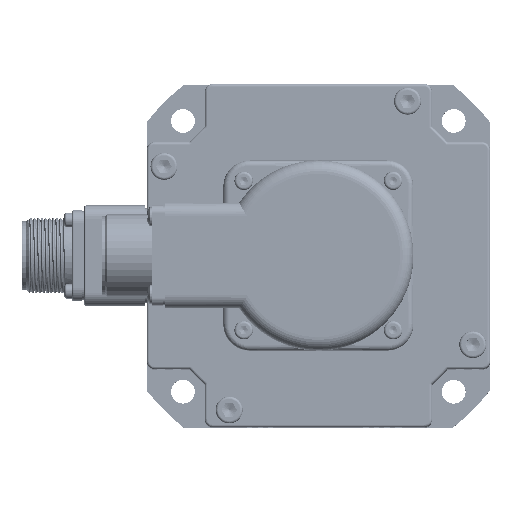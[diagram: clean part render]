
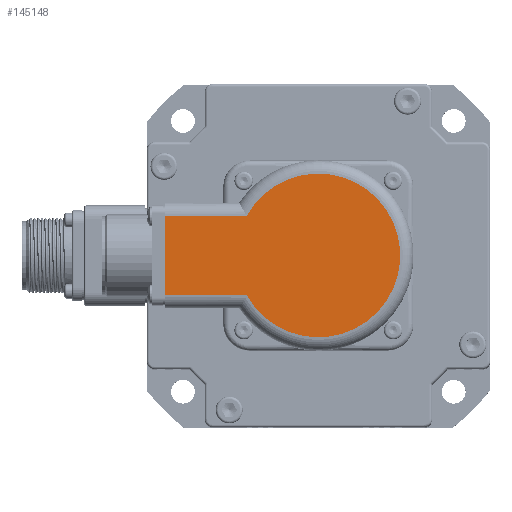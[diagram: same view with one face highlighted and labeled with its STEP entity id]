
A CAD part, top view. The second image highlights one B-rep face of the part: STEP entity #145148.
In plain terms, the highlighted planar face has unit normal (0, 0, 1) as drawn and (1, 0, 0) by its records, which use the part's own axes.
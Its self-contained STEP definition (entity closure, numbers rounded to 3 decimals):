
#142286=DIRECTION('',(0.,1.,0.));
#142287=VECTOR('',#142286,30.871);
#142288=CARTESIAN_POINT('',(43.,27.129,15.));
#142289=LINE('',#142288,#142287);
#142290=DIRECTION('',(0.,0.,-1.));
#142291=VECTOR('',#142290,30.);
#142292=CARTESIAN_POINT('',(43.,58.,15.));
#142293=LINE('',#142292,#142291);
#142294=DIRECTION('',(0.,-1.,0.));
#142295=VECTOR('',#142294,30.871);
#142296=CARTESIAN_POINT('',(43.,58.,-15.));
#142297=LINE('',#142296,#142295);
#142310=CARTESIAN_POINT('',(43.,0.,0.));
#142311=DIRECTION('',(1.,0.,0.));
#142312=DIRECTION('',(0.,0.875,0.484));
#142313=AXIS2_PLACEMENT_3D('',#142310,#142311,#142312);
#143648=CARTESIAN_POINT('',(43.,58.,15.));
#143650=VERTEX_POINT('',#143648);
#143651=CARTESIAN_POINT('',(43.,27.129,15.));
#143652=VERTEX_POINT('',#143651);
#143655=CARTESIAN_POINT('',(43.,58.,-15.));
#143656=CARTESIAN_POINT('',(43.,27.129,-15.));
#143657=VERTEX_POINT('',#143655);
#143658=VERTEX_POINT('',#143656);
#145135=CARTESIAN_POINT('',(43.,0.,0.));
#145136=DIRECTION('',(1.,0.,0.));
#145137=DIRECTION('',(0.,-1.,0.));
#145138=AXIS2_PLACEMENT_3D('',#145135,#145136,#145137);
#145139=PLANE('',#145138);
#145140=ORIENTED_EDGE('',*,*,#145127,.T.);
#145141=ORIENTED_EDGE('',*,*,#145068,.T.);
#145143=ORIENTED_EDGE('',*,*,#145142,.T.);
#145145=ORIENTED_EDGE('',*,*,#145144,.F.);
#145146=EDGE_LOOP('',(#145140,#145141,#145143,#145145));
#145147=FACE_OUTER_BOUND('',#145146,.F.);
#145148=ADVANCED_FACE('',(#145147),#145139,.T.);
#142314=CIRCLE('',#142313,31.);
#145068=EDGE_CURVE('',#143650,#143657,#142293,.T.);
#145127=EDGE_CURVE('',#143652,#143650,#142289,.T.);
#145142=EDGE_CURVE('',#143657,#143658,#142297,.T.);
#145144=EDGE_CURVE('',#143652,#143658,#142314,.T.);
